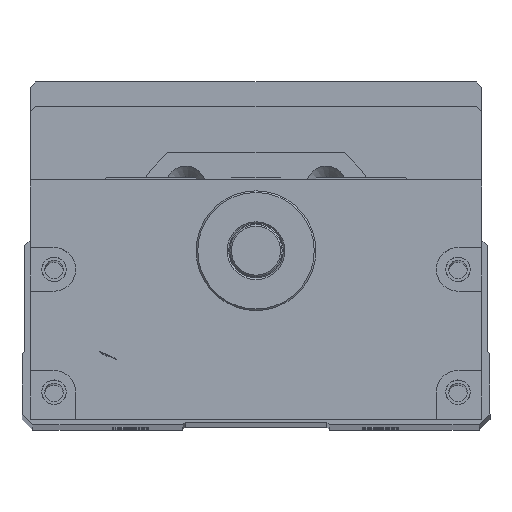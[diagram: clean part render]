
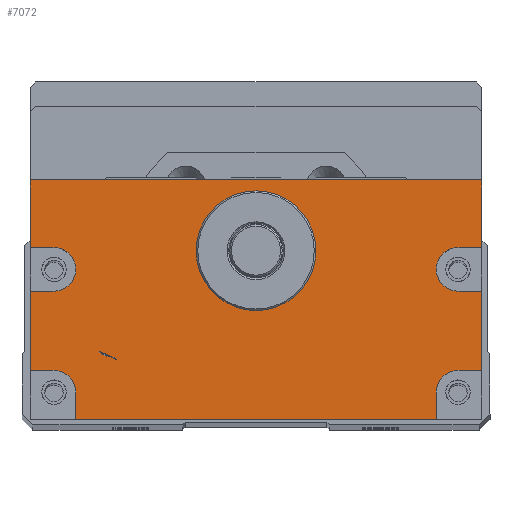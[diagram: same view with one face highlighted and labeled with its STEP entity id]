
A CAD part, top view. The second image highlights one B-rep face of the part: STEP entity #7072.
In plain terms, the highlighted planar face has unit normal (0, 0, 1).
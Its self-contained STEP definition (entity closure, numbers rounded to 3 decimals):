
#560=LINE('',#28080,#1268);
#562=LINE('',#28084,#1270);
#563=LINE('',#28087,#1271);
#564=LINE('',#28089,#1272);
#565=LINE('',#28093,#1273);
#566=LINE('',#28095,#1274);
#567=LINE('',#28096,#1275);
#568=LINE('',#28098,#1276);
#569=LINE('',#28102,#1277);
#570=LINE('',#28104,#1278);
#571=LINE('',#28106,#1279);
#572=LINE('',#28110,#1280);
#573=LINE('',#28112,#1281);
#574=LINE('',#28114,#1282);
#1268=VECTOR('',#16579,1.);
#1270=VECTOR('',#16583,1.);
#1271=VECTOR('',#16584,1.);
#1272=VECTOR('',#16585,1.);
#1273=VECTOR('',#16588,1.);
#1274=VECTOR('',#16589,1.);
#1275=VECTOR('',#16590,1.);
#1276=VECTOR('',#16591,1.);
#1277=VECTOR('',#16594,1.);
#1278=VECTOR('',#16595,1.);
#1279=VECTOR('',#16596,1.);
#1280=VECTOR('',#16599,1.);
#1281=VECTOR('',#16600,1.);
#1282=VECTOR('',#16601,1.);
#7072=ADVANCED_FACE('',(#7954,#7955),#7557,.T.);
#7557=PLANE('',#15072);
#7954=FACE_BOUND('',#8536,.T.);
#7955=FACE_BOUND('',#8537,.T.);
#8536=EDGE_LOOP('',(#10023,#10024,#10025,#10026,#10027,#10028,#10029,#10030,
#10031,#10032,#10033,#10034,#10035,#10036,#10037,#10038,#10039,#10040));
#8537=EDGE_LOOP('',(#10041));
#10023=ORIENTED_EDGE('',*,*,#13379,.F.);
#10024=ORIENTED_EDGE('',*,*,#13380,.T.);
#10025=ORIENTED_EDGE('',*,*,#13381,.F.);
#10026=ORIENTED_EDGE('',*,*,#13382,.F.);
#10027=ORIENTED_EDGE('',*,*,#13383,.F.);
#10028=ORIENTED_EDGE('',*,*,#13384,.T.);
#10029=ORIENTED_EDGE('',*,*,#13377,.T.);
#10030=ORIENTED_EDGE('',*,*,#13385,.T.);
#10031=ORIENTED_EDGE('',*,*,#13386,.F.);
#10032=ORIENTED_EDGE('',*,*,#13387,.F.);
#10033=ORIENTED_EDGE('',*,*,#13388,.F.);
#10034=ORIENTED_EDGE('',*,*,#13389,.T.);
#10035=ORIENTED_EDGE('',*,*,#13390,.F.);
#10036=ORIENTED_EDGE('',*,*,#13391,.F.);
#10037=ORIENTED_EDGE('',*,*,#13392,.F.);
#10038=ORIENTED_EDGE('',*,*,#13393,.T.);
#10039=ORIENTED_EDGE('',*,*,#13394,.F.);
#10040=ORIENTED_EDGE('',*,*,#13395,.F.);
#10041=ORIENTED_EDGE('',*,*,#13363,.T.);
#12237=VERTEX_POINT('',#28051);
#12250=VERTEX_POINT('',#28079);
#12251=VERTEX_POINT('',#28081);
#12252=VERTEX_POINT('',#28085);
#12253=VERTEX_POINT('',#28086);
#12254=VERTEX_POINT('',#28088);
#12255=VERTEX_POINT('',#28090);
#12256=VERTEX_POINT('',#28092);
#12257=VERTEX_POINT('',#28094);
#12258=VERTEX_POINT('',#28097);
#12259=VERTEX_POINT('',#28099);
#12260=VERTEX_POINT('',#28101);
#12261=VERTEX_POINT('',#28103);
#12262=VERTEX_POINT('',#28105);
#12263=VERTEX_POINT('',#28107);
#12264=VERTEX_POINT('',#28109);
#12265=VERTEX_POINT('',#28111);
#12266=VERTEX_POINT('',#28113);
#12267=VERTEX_POINT('',#28115);
#13363=EDGE_CURVE('',#12237,#12237,#14459,.T.);
#13377=EDGE_CURVE('',#12251,#12250,#560,.T.);
#13379=EDGE_CURVE('',#12252,#12253,#562,.T.);
#13380=EDGE_CURVE('',#12252,#12254,#563,.T.);
#13381=EDGE_CURVE('',#12255,#12254,#564,.T.);
#13382=EDGE_CURVE('',#12256,#12255,#14468,.T.);
#13383=EDGE_CURVE('',#12257,#12256,#565,.T.);
#13384=EDGE_CURVE('',#12257,#12251,#566,.T.);
#13385=EDGE_CURVE('',#12250,#12258,#567,.T.);
#13386=EDGE_CURVE('',#12259,#12258,#568,.T.);
#13387=EDGE_CURVE('',#12260,#12259,#14469,.T.);
#13388=EDGE_CURVE('',#12261,#12260,#569,.T.);
#13389=EDGE_CURVE('',#12261,#12262,#570,.T.);
#13390=EDGE_CURVE('',#12263,#12262,#571,.T.);
#13391=EDGE_CURVE('',#12264,#12263,#14470,.T.);
#13392=EDGE_CURVE('',#12265,#12264,#572,.T.);
#13393=EDGE_CURVE('',#12265,#12266,#573,.T.);
#13394=EDGE_CURVE('',#12267,#12266,#574,.T.);
#13395=EDGE_CURVE('',#12253,#12267,#14471,.T.);
#14459=CIRCLE('',#15056,11.);
#14468=CIRCLE('',#15068,4.);
#14469=CIRCLE('',#15069,4.);
#14470=CIRCLE('',#15070,4.);
#14471=CIRCLE('',#15071,4.);
#15056=AXIS2_PLACEMENT_3D('',#28050,#16552,#16553);
#15068=AXIS2_PLACEMENT_3D('',#28091,#16586,#16587);
#15069=AXIS2_PLACEMENT_3D('',#28100,#16592,#16593);
#15070=AXIS2_PLACEMENT_3D('',#28108,#16597,#16598);
#15071=AXIS2_PLACEMENT_3D('',#28116,#16602,#16603);
#15072=AXIS2_PLACEMENT_3D('',#28117,#16604,#16605);
#16552=DIRECTION('',(0.,0.,-1.));
#16553=DIRECTION('',(1.,0.,0.));
#16579=DIRECTION('',(-1.,0.,0.));
#16583=DIRECTION('',(-1.,0.,0.));
#16584=DIRECTION('',(0.,1.,0.));
#16585=DIRECTION('',(1.,0.,0.));
#16586=DIRECTION('',(0.,0.,1.));
#16587=DIRECTION('',(1.,0.,0.));
#16588=DIRECTION('',(-1.,0.,0.));
#16589=DIRECTION('',(0.,1.,0.));
#16590=DIRECTION('',(0.,-1.,0.));
#16591=DIRECTION('',(-1.,0.,0.));
#16592=DIRECTION('',(0.,0.,1.));
#16593=DIRECTION('',(1.,0.,0.));
#16594=DIRECTION('',(1.,0.,0.));
#16595=DIRECTION('',(0.,-1.,0.));
#16596=DIRECTION('',(-1.,0.,0.));
#16597=DIRECTION('',(0.,0.,1.));
#16598=DIRECTION('',(1.,0.,0.));
#16599=DIRECTION('',(0.,1.,0.));
#16600=DIRECTION('',(1.,0.,0.));
#16601=DIRECTION('',(0.,-1.,0.));
#16602=DIRECTION('',(0.,0.,1.));
#16603=DIRECTION('',(1.,0.,0.));
#16604=DIRECTION('',(0.,0.,1.));
#16605=DIRECTION('',(1.,0.,0.));
#28050=CARTESIAN_POINT('',(450.,0.,382.5));
#28051=CARTESIAN_POINT('',(461.,0.,382.5));
#28079=CARTESIAN_POINT('',(408.5,13.,382.5));
#28080=CARTESIAN_POINT('',(491.5,13.,382.5));
#28081=CARTESIAN_POINT('',(491.5,13.,382.5));
#28084=CARTESIAN_POINT('',(491.5,-22.,382.5));
#28085=CARTESIAN_POINT('',(491.5,-22.,382.5));
#28086=CARTESIAN_POINT('',(487.115,-22.,382.5));
#28087=CARTESIAN_POINT('',(491.5,-31.,382.5));
#28088=CARTESIAN_POINT('',(491.5,-7.431,382.5));
#28089=CARTESIAN_POINT('',(491.5,-7.431,382.5));
#28090=CARTESIAN_POINT('',(487.115,-7.431,382.5));
#28091=CARTESIAN_POINT('',(487.115,-3.431,382.5));
#28092=CARTESIAN_POINT('',(487.115,0.569,382.5));
#28093=CARTESIAN_POINT('',(491.5,0.569,382.5));
#28094=CARTESIAN_POINT('',(491.5,0.569,382.5));
#28095=CARTESIAN_POINT('',(491.5,-31.,382.5));
#28096=CARTESIAN_POINT('',(408.5,27.5,382.5));
#28097=CARTESIAN_POINT('',(408.5,0.569,382.5));
#28098=CARTESIAN_POINT('',(491.5,0.569,382.5));
#28099=CARTESIAN_POINT('',(412.885,0.569,382.5));
#28100=CARTESIAN_POINT('',(412.885,-3.431,382.5));
#28101=CARTESIAN_POINT('',(412.885,-7.431,382.5));
#28102=CARTESIAN_POINT('',(491.5,-7.431,382.5));
#28103=CARTESIAN_POINT('',(408.5,-7.431,382.5));
#28104=CARTESIAN_POINT('',(408.5,27.5,382.5));
#28105=CARTESIAN_POINT('',(408.5,-22.,382.5));
#28106=CARTESIAN_POINT('',(491.5,-22.,382.5));
#28107=CARTESIAN_POINT('',(412.885,-22.,382.5));
#28108=CARTESIAN_POINT('',(412.885,-26.,382.5));
#28109=CARTESIAN_POINT('',(416.885,-26.,382.5));
#28110=CARTESIAN_POINT('',(416.885,-31.,382.5));
#28111=CARTESIAN_POINT('',(416.885,-31.,382.5));
#28112=CARTESIAN_POINT('',(408.5,-31.,382.5));
#28113=CARTESIAN_POINT('',(483.115,-31.,382.5));
#28114=CARTESIAN_POINT('',(483.115,-31.,382.5));
#28115=CARTESIAN_POINT('',(483.115,-26.,382.5));
#28116=CARTESIAN_POINT('',(487.115,-26.,382.5));
#28117=CARTESIAN_POINT('',(491.5,-31.,382.5));
